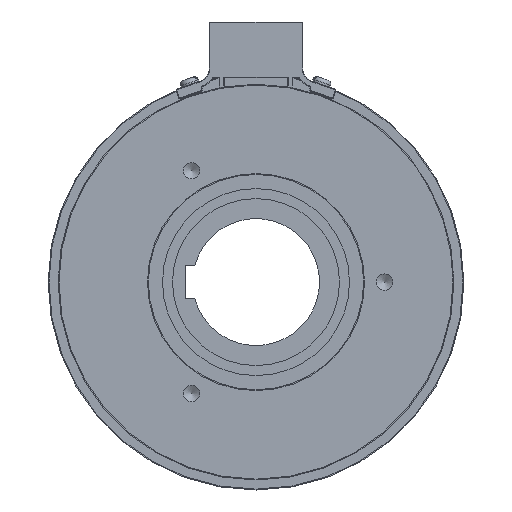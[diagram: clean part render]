
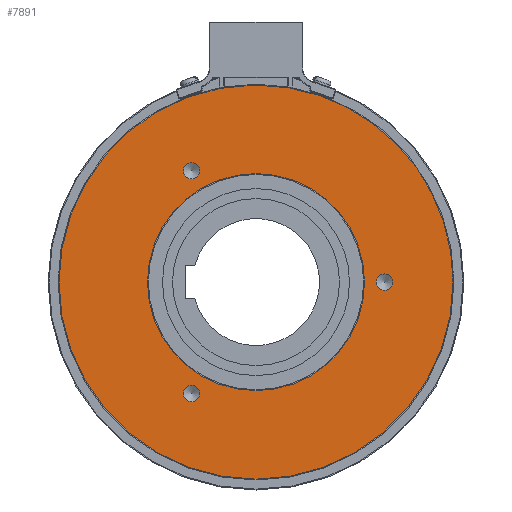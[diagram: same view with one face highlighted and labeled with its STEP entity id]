
A CAD part, left-side view. The second image highlights one B-rep face of the part: STEP entity #7891.
In plain terms, the highlighted planar face has unit normal (-1, 0, 0).
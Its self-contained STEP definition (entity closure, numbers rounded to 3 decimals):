
#182=PLANE('',#8614);
#265=FACE_BOUND('',#1052,.T.);
#266=FACE_BOUND('',#1053,.T.);
#267=FACE_BOUND('',#1054,.T.);
#268=FACE_BOUND('',#1055,.T.);
#595=FACE_OUTER_BOUND('',#1051,.T.);
#1051=EDGE_LOOP('',(#5835,#5836,#5837));
#1052=EDGE_LOOP('',(#5838,#5839));
#1053=EDGE_LOOP('',(#5840,#5841));
#1054=EDGE_LOOP('',(#5842,#5843));
#1055=EDGE_LOOP('',(#5844,#5845));
#1368=CIRCLE('',#8142,59.);
#1369=CIRCLE('',#8143,59.);
#1577=CIRCLE('',#8537,2.459);
#1578=CIRCLE('',#8538,2.459);
#1581=CIRCLE('',#8543,2.459);
#1582=CIRCLE('',#8544,2.459);
#1585=CIRCLE('',#8549,2.459);
#1586=CIRCLE('',#8550,2.459);
#1629=CIRCLE('',#8613,59.);
#1630=CIRCLE('',#8615,32.5);
#1631=CIRCLE('',#8616,32.5);
#2909=VERTEX_POINT('',#11861);
#2914=VERTEX_POINT('',#11871);
#2915=VERTEX_POINT('',#11873);
#3168=VERTEX_POINT('',#12910);
#3169=VERTEX_POINT('',#12911);
#3173=VERTEX_POINT('',#12923);
#3174=VERTEX_POINT('',#12924);
#3178=VERTEX_POINT('',#12936);
#3179=VERTEX_POINT('',#12937);
#3222=VERTEX_POINT('',#13086);
#3223=VERTEX_POINT('',#13087);
#3676=EDGE_CURVE('',#2915,#2914,#1368,.T.);
#3677=EDGE_CURVE('',#2909,#2915,#1369,.T.);
#4111=EDGE_CURVE('',#3168,#3169,#1577,.T.);
#4112=EDGE_CURVE('',#3169,#3168,#1578,.T.);
#4117=EDGE_CURVE('',#3173,#3174,#1581,.T.);
#4118=EDGE_CURVE('',#3174,#3173,#1582,.T.);
#4123=EDGE_CURVE('',#3178,#3179,#1585,.T.);
#4124=EDGE_CURVE('',#3179,#3178,#1586,.T.);
#4182=EDGE_CURVE('',#2914,#2909,#1629,.T.);
#4183=EDGE_CURVE('',#3222,#3223,#1630,.T.);
#4184=EDGE_CURVE('',#3223,#3222,#1631,.T.);
#5835=ORIENTED_EDGE('',*,*,#3676,.T.);
#5836=ORIENTED_EDGE('',*,*,#4182,.T.);
#5837=ORIENTED_EDGE('',*,*,#3677,.T.);
#5838=ORIENTED_EDGE('',*,*,#4111,.T.);
#5839=ORIENTED_EDGE('',*,*,#4112,.T.);
#5840=ORIENTED_EDGE('',*,*,#4117,.T.);
#5841=ORIENTED_EDGE('',*,*,#4118,.T.);
#5842=ORIENTED_EDGE('',*,*,#4123,.T.);
#5843=ORIENTED_EDGE('',*,*,#4124,.T.);
#5844=ORIENTED_EDGE('',*,*,#4183,.F.);
#5845=ORIENTED_EDGE('',*,*,#4184,.F.);
#7891=ADVANCED_FACE('',(#595,#265,#266,#267,#268),#182,.T.);
#8142=AXIS2_PLACEMENT_3D('',#11874,#9242,#9243);
#8143=AXIS2_PLACEMENT_3D('',#11875,#9244,#9245);
#8537=AXIS2_PLACEMENT_3D('',#12912,#10244,#10245);
#8538=AXIS2_PLACEMENT_3D('',#12913,#10246,#10247);
#8543=AXIS2_PLACEMENT_3D('',#12925,#10258,#10259);
#8544=AXIS2_PLACEMENT_3D('',#12926,#10260,#10261);
#8549=AXIS2_PLACEMENT_3D('',#12938,#10272,#10273);
#8550=AXIS2_PLACEMENT_3D('',#12939,#10274,#10275);
#8613=AXIS2_PLACEMENT_3D('',#13084,#10412,#10413);
#8614=AXIS2_PLACEMENT_3D('',#13085,#10414,#10415);
#8615=AXIS2_PLACEMENT_3D('',#13088,#10416,#10417);
#8616=AXIS2_PLACEMENT_3D('',#13089,#10418,#10419);
#9242=DIRECTION('center_axis',(-1.,0.,0.));
#9243=DIRECTION('ref_axis',(0.,1.,0.));
#9244=DIRECTION('center_axis',(-1.,0.,0.));
#9245=DIRECTION('ref_axis',(0.,1.,0.));
#10244=DIRECTION('center_axis',(1.,0.,0.));
#10245=DIRECTION('ref_axis',(0.,0.,
1.));
#10246=DIRECTION('center_axis',(1.,0.,0.));
#10247=DIRECTION('ref_axis',(0.,0.,
1.));
#10258=DIRECTION('center_axis',(1.,0.,0.));
#10259=DIRECTION('ref_axis',(0.,0.,
1.));
#10260=DIRECTION('center_axis',(1.,0.,0.));
#10261=DIRECTION('ref_axis',(0.,0.,
1.));
#10272=DIRECTION('center_axis',(1.,0.,0.));
#10273=DIRECTION('ref_axis',(0.,0.,
1.));
#10274=DIRECTION('center_axis',(1.,0.,0.));
#10275=DIRECTION('ref_axis',(0.,0.,
1.));
#10412=DIRECTION('center_axis',(-1.,0.,0.));
#10413=DIRECTION('ref_axis',(0.,1.,0.));
#10414=DIRECTION('center_axis',(-1.,0.,0.));
#10415=DIRECTION('ref_axis',(0.,0.,
1.));
#10416=DIRECTION('center_axis',(-1.,0.,0.));
#10417=DIRECTION('ref_axis',(0.,1.,0.));
#10418=DIRECTION('center_axis',(-1.,0.,0.));
#10419=DIRECTION('ref_axis',(0.,1.,0.));
#11861=CARTESIAN_POINT('',(-17.9,-9.667,58.203));
#11871=CARTESIAN_POINT('',(-17.9,-59.,0.));
#11873=CARTESIAN_POINT('',(-17.9,59.,0.));
#11874=CARTESIAN_POINT('Origin',(-17.9,0.,0.));
#11875=CARTESIAN_POINT('Origin',(-17.9,0.,0.));
#12910=CARTESIAN_POINT('',(-17.9,19.25,35.8));
#12911=CARTESIAN_POINT('',(-17.9,19.25,30.883));
#12912=CARTESIAN_POINT('Origin',(-17.9,19.25,33.342));
#12913=CARTESIAN_POINT('Origin',(-17.9,19.25,33.342));
#12923=CARTESIAN_POINT('',(-17.9,-38.5,2.459));
#12924=CARTESIAN_POINT('',(-17.9,-38.5,-2.458));
#12925=CARTESIAN_POINT('Origin',(-17.9,-38.5,0.));
#12926=CARTESIAN_POINT('Origin',(-17.9,-38.5,0.));
#12936=CARTESIAN_POINT('',(-17.9,19.25,-30.883));
#12937=CARTESIAN_POINT('',(-17.9,19.25,-35.8));
#12938=CARTESIAN_POINT('Origin',(-17.9,19.25,-33.342));
#12939=CARTESIAN_POINT('Origin',(-17.9,19.25,-33.342));
#13084=CARTESIAN_POINT('Origin',(-17.9,0.,0.));
#13085=CARTESIAN_POINT('Origin',(-17.9,45.75,0.));
#13086=CARTESIAN_POINT('',(-17.9,32.5,0.));
#13087=CARTESIAN_POINT('',(-17.9,-32.5,0.));
#13088=CARTESIAN_POINT('Origin',(-17.9,0.,0.));
#13089=CARTESIAN_POINT('Origin',(-17.9,0.,0.));
